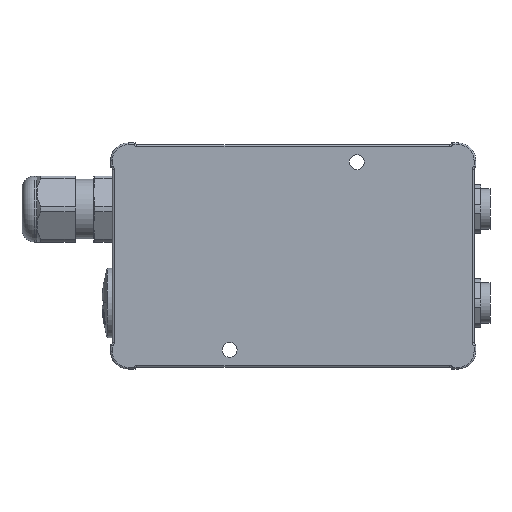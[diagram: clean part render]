
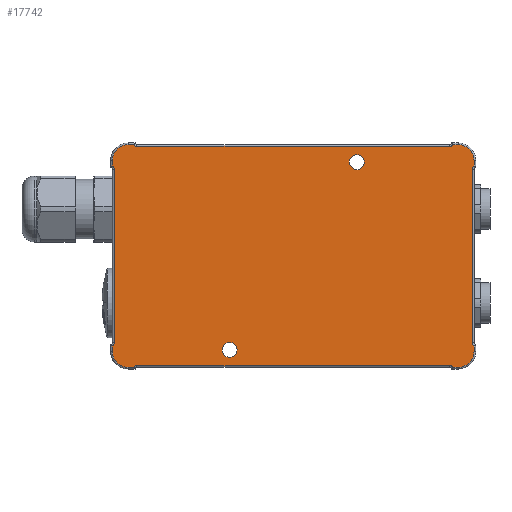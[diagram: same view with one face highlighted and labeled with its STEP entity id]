
A CAD part, front view. The second image highlights one B-rep face of the part: STEP entity #17742.
In plain terms, the highlighted planar face has unit normal (0, -1, 0).
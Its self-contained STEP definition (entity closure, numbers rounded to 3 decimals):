
#56=DIRECTION('',(0.,0.,1.));
#57=VECTOR('',#56,1.634);
#58=CARTESIAN_POINT('',(52.,0.,25.866));
#59=LINE('',#58,#57);
#64=CARTESIAN_POINT('',(52.5,0.,25.));
#65=DIRECTION('',(0.,-1.,0.));
#66=DIRECTION('',(-0.5,0.,0.866));
#67=AXIS2_PLACEMENT_3D('',#64,#65,#66);
#72=DIRECTION('',(0.,0.,-1.));
#73=VECTOR('',#72,50.);
#74=CARTESIAN_POINT('',(51.5,0.,25.));
#75=LINE('',#74,#73);
#79=CARTESIAN_POINT('',(52.5,0.,-25.));
#80=DIRECTION('',(0.,-1.,0.));
#81=DIRECTION('',(-1.,0.,0.));
#82=AXIS2_PLACEMENT_3D('',#79,#80,#81);
#87=DIRECTION('',(0.,0.,1.));
#88=VECTOR('',#87,1.634);
#89=CARTESIAN_POINT('',(52.,0.,-27.5));
#90=LINE('',#89,#88);
#94=CARTESIAN_POINT('',(47.5,0.,-27.5));
#95=DIRECTION('',(0.,-1.,0.));
#96=DIRECTION('',(0.,0.,-1.));
#97=AXIS2_PLACEMENT_3D('',#94,#95,#96);
#102=DIRECTION('',(1.,0.,0.));
#103=VECTOR('',#102,1.634);
#104=CARTESIAN_POINT('',(45.866,0.,-32.));
#105=LINE('',#104,#103);
#109=CARTESIAN_POINT('',(45.,0.,-32.5));
#110=DIRECTION('',(0.,-1.,0.));
#111=DIRECTION('',(0.866,0.,0.5));
#112=AXIS2_PLACEMENT_3D('',#109,#110,#111);
#117=DIRECTION('',(-1.,0.,0.));
#118=VECTOR('',#117,90.);
#119=CARTESIAN_POINT('',(45.,0.,-31.5));
#120=LINE('',#119,#118);
#124=CARTESIAN_POINT('',(-45.,0.,-32.5));
#125=DIRECTION('',(0.,-1.,0.));
#126=DIRECTION('',(0.,0.,1.));
#127=AXIS2_PLACEMENT_3D('',#124,#125,#126);
#132=DIRECTION('',(1.,0.,0.));
#133=VECTOR('',#132,1.634);
#134=CARTESIAN_POINT('',(-47.5,0.,-32.));
#135=LINE('',#134,#133);
#139=CARTESIAN_POINT('',(-47.5,0.,-27.5));
#140=DIRECTION('',(0.,-1.,0.));
#141=DIRECTION('',(-1.,0.,0.));
#142=AXIS2_PLACEMENT_3D('',#139,#140,#141);
#147=DIRECTION('',(0.,0.,-1.));
#148=VECTOR('',#147,1.634);
#149=CARTESIAN_POINT('',(-52.,0.,-25.866));
#150=LINE('',#149,#148);
#154=CARTESIAN_POINT('',(-52.5,0.,-25.));
#155=DIRECTION('',(0.,-1.,0.));
#156=DIRECTION('',(0.5,0.,-0.866));
#157=AXIS2_PLACEMENT_3D('',#154,#155,#156);
#162=DIRECTION('',(0.,0.,1.));
#163=VECTOR('',#162,50.);
#164=CARTESIAN_POINT('',(-51.5,0.,-25.));
#165=LINE('',#164,#163);
#169=CARTESIAN_POINT('',(-52.5,0.,25.));
#170=DIRECTION('',(0.,-1.,0.));
#171=DIRECTION('',(1.,0.,0.));
#172=AXIS2_PLACEMENT_3D('',#169,#170,#171);
#177=DIRECTION('',(0.,0.,-1.));
#178=VECTOR('',#177,1.634);
#179=CARTESIAN_POINT('',(-52.,0.,27.5));
#180=LINE('',#179,#178);
#184=CARTESIAN_POINT('',(-47.5,0.,27.5));
#185=DIRECTION('',(0.,-1.,0.));
#186=DIRECTION('',(0.,0.,1.));
#187=AXIS2_PLACEMENT_3D('',#184,#185,#186);
#192=DIRECTION('',(-1.,0.,0.));
#193=VECTOR('',#192,1.634);
#194=CARTESIAN_POINT('',(-45.866,0.,32.));
#195=LINE('',#194,#193);
#199=CARTESIAN_POINT('',(-45.,0.,32.5));
#200=DIRECTION('',(0.,-1.,0.));
#201=DIRECTION('',(-0.866,0.,-0.5));
#202=AXIS2_PLACEMENT_3D('',#199,#200,#201);
#207=DIRECTION('',(1.,0.,0.));
#208=VECTOR('',#207,90.);
#209=CARTESIAN_POINT('',(-45.,0.,31.5));
#210=LINE('',#209,#208);
#214=CARTESIAN_POINT('',(45.,0.,32.5));
#215=DIRECTION('',(0.,-1.,0.));
#216=DIRECTION('',(0.,0.,-1.));
#217=AXIS2_PLACEMENT_3D('',#214,#215,#216);
#222=DIRECTION('',(-1.,0.,0.));
#223=VECTOR('',#222,1.634);
#224=CARTESIAN_POINT('',(47.5,0.,32.));
#225=LINE('',#224,#223);
#229=CARTESIAN_POINT('',(47.5,0.,27.5));
#230=DIRECTION('',(0.,-1.,0.));
#231=DIRECTION('',(1.,0.,0.));
#232=AXIS2_PLACEMENT_3D('',#229,#230,#231);
#237=CARTESIAN_POINT('',(-18.3,0.,-27.));
#238=DIRECTION('',(0.,1.,0.));
#239=DIRECTION('',(1.,0.,0.));
#240=AXIS2_PLACEMENT_3D('',#237,#238,#239);
#245=CARTESIAN_POINT('',(-18.3,0.,-27.));
#246=DIRECTION('',(0.,1.,0.));
#247=DIRECTION('',(-1.,0.,0.));
#248=AXIS2_PLACEMENT_3D('',#245,#246,#247);
#253=CARTESIAN_POINT('',(18.3,0.,27.));
#254=DIRECTION('',(0.,1.,0.));
#255=DIRECTION('',(-1.,0.,0.));
#256=AXIS2_PLACEMENT_3D('',#253,#254,#255);
#261=CARTESIAN_POINT('',(18.3,0.,27.));
#262=DIRECTION('',(0.,1.,0.));
#263=DIRECTION('',(1.,0.,0.));
#264=AXIS2_PLACEMENT_3D('',#261,#262,#263);
#15621=CARTESIAN_POINT('',(-16.15,0.,-27.));
#15622=CARTESIAN_POINT('',(-20.45,0.,-27.));
#15623=VERTEX_POINT('',#15621);
#15624=VERTEX_POINT('',#15622);
#15629=CARTESIAN_POINT('',(16.15,0.,27.));
#15630=CARTESIAN_POINT('',(20.45,0.,27.));
#15631=VERTEX_POINT('',#15629);
#15632=VERTEX_POINT('',#15630);
#15657=CARTESIAN_POINT('',(52.,0.,25.866));
#15658=CARTESIAN_POINT('',(52.,0.,27.5));
#15659=VERTEX_POINT('',#15657);
#15660=VERTEX_POINT('',#15658);
#15665=CARTESIAN_POINT('',(47.5,0.,32.));
#15666=VERTEX_POINT('',#15665);
#15671=CARTESIAN_POINT('',(45.866,0.,32.));
#15672=VERTEX_POINT('',#15671);
#15677=CARTESIAN_POINT('',(51.5,0.,25.));
#15678=CARTESIAN_POINT('',(51.5,0.,-25.));
#15679=VERTEX_POINT('',#15677);
#15680=VERTEX_POINT('',#15678);
#15681=CARTESIAN_POINT('',(45.866,0.,-32.));
#15682=CARTESIAN_POINT('',(47.5,0.,-32.));
#15683=VERTEX_POINT('',#15681);
#15684=VERTEX_POINT('',#15682);
#15689=CARTESIAN_POINT('',(52.,0.,-27.5));
#15690=VERTEX_POINT('',#15689);
#15695=CARTESIAN_POINT('',(52.,0.,-25.866));
#15696=VERTEX_POINT('',#15695);
#15701=CARTESIAN_POINT('',(45.,0.,-31.5));
#15702=CARTESIAN_POINT('',(-45.,0.,-31.5));
#15703=VERTEX_POINT('',#15701);
#15704=VERTEX_POINT('',#15702);
#15705=CARTESIAN_POINT('',(-52.,0.,-25.866));
#15706=CARTESIAN_POINT('',(-52.,0.,-27.5));
#15707=VERTEX_POINT('',#15705);
#15708=VERTEX_POINT('',#15706);
#15713=CARTESIAN_POINT('',(-47.5,0.,-32.));
#15714=VERTEX_POINT('',#15713);
#15719=CARTESIAN_POINT('',(-45.866,0.,-32.));
#15720=VERTEX_POINT('',#15719);
#15725=CARTESIAN_POINT('',(-51.5,0.,-25.));
#15726=CARTESIAN_POINT('',(-51.5,0.,25.));
#15727=VERTEX_POINT('',#15725);
#15728=VERTEX_POINT('',#15726);
#15733=CARTESIAN_POINT('',(-52.,0.,27.5));
#15734=CARTESIAN_POINT('',(-52.,0.,25.866));
#15735=VERTEX_POINT('',#15733);
#15736=VERTEX_POINT('',#15734);
#15737=CARTESIAN_POINT('',(-47.5,0.,32.));
#15738=VERTEX_POINT('',#15737);
#15741=CARTESIAN_POINT('',(-45.866,0.,32.));
#15742=VERTEX_POINT('',#15741);
#15749=CARTESIAN_POINT('',(-45.,0.,31.5));
#15750=CARTESIAN_POINT('',(45.,0.,31.5));
#15751=VERTEX_POINT('',#15749);
#15752=VERTEX_POINT('',#15750);
#17675=CARTESIAN_POINT('',(0.,0.,0.));
#17676=DIRECTION('',(0.,1.,0.));
#17677=DIRECTION('',(1.,0.,0.));
#17678=AXIS2_PLACEMENT_3D('',#17675,#17676,#17677);
#17679=PLANE('',#17678);
#17681=ORIENTED_EDGE('',*,*,#17680,.F.);
#17683=ORIENTED_EDGE('',*,*,#17682,.T.);
#17685=ORIENTED_EDGE('',*,*,#17684,.T.);
#17687=ORIENTED_EDGE('',*,*,#17686,.T.);
#17689=ORIENTED_EDGE('',*,*,#17688,.F.);
#17691=ORIENTED_EDGE('',*,*,#17690,.F.);
#17693=ORIENTED_EDGE('',*,*,#17692,.F.);
#17695=ORIENTED_EDGE('',*,*,#17694,.T.);
#17697=ORIENTED_EDGE('',*,*,#17696,.T.);
#17699=ORIENTED_EDGE('',*,*,#17698,.T.);
#17701=ORIENTED_EDGE('',*,*,#17700,.F.);
#17703=ORIENTED_EDGE('',*,*,#17702,.F.);
#17705=ORIENTED_EDGE('',*,*,#17704,.F.);
#17707=ORIENTED_EDGE('',*,*,#17706,.T.);
#17709=ORIENTED_EDGE('',*,*,#17708,.T.);
#17711=ORIENTED_EDGE('',*,*,#17710,.T.);
#17713=ORIENTED_EDGE('',*,*,#17712,.F.);
#17715=ORIENTED_EDGE('',*,*,#17714,.F.);
#17717=ORIENTED_EDGE('',*,*,#17716,.F.);
#17719=ORIENTED_EDGE('',*,*,#17718,.T.);
#17721=ORIENTED_EDGE('',*,*,#17720,.T.);
#17723=ORIENTED_EDGE('',*,*,#17722,.T.);
#17725=ORIENTED_EDGE('',*,*,#17724,.F.);
#17727=ORIENTED_EDGE('',*,*,#17726,.F.);
#17728=EDGE_LOOP('',(#17681,#17683,#17685,#17687,#17689,#17691,#17693,#17695,
#17697,#17699,#17701,#17703,#17705,#17707,#17709,#17711,#17713,#17715,#17717,
#17719,#17721,#17723,#17725,#17727));
#17729=FACE_OUTER_BOUND('',#17728,.F.);
#17731=ORIENTED_EDGE('',*,*,#17730,.F.);
#17733=ORIENTED_EDGE('',*,*,#17732,.F.);
#17734=EDGE_LOOP('',(#17731,#17733));
#17735=FACE_BOUND('',#17734,.F.);
#17737=ORIENTED_EDGE('',*,*,#17736,.F.);
#17739=ORIENTED_EDGE('',*,*,#17738,.F.);
#17740=EDGE_LOOP('',(#17737,#17739));
#17741=FACE_BOUND('',#17740,.F.);
#68=CIRCLE('',#67,1.);
#83=CIRCLE('',#82,1.);
#98=CIRCLE('',#97,4.5);
#113=CIRCLE('',#112,1.);
#128=CIRCLE('',#127,1.);
#143=CIRCLE('',#142,4.5);
#158=CIRCLE('',#157,1.);
#173=CIRCLE('',#172,1.);
#188=CIRCLE('',#187,4.5);
#203=CIRCLE('',#202,1.);
#218=CIRCLE('',#217,1.);
#233=CIRCLE('',#232,4.5);
#241=CIRCLE('',#240,2.15);
#249=CIRCLE('',#248,2.15);
#257=CIRCLE('',#256,2.15);
#265=CIRCLE('',#264,2.15);
#17680=EDGE_CURVE('',#15659,#15660,#59,.T.);
#17682=EDGE_CURVE('',#15659,#15679,#68,.T.);
#17684=EDGE_CURVE('',#15679,#15680,#75,.T.);
#17686=EDGE_CURVE('',#15680,#15696,#83,.T.);
#17688=EDGE_CURVE('',#15690,#15696,#90,.T.);
#17690=EDGE_CURVE('',#15684,#15690,#98,.T.);
#17692=EDGE_CURVE('',#15683,#15684,#105,.T.);
#17694=EDGE_CURVE('',#15683,#15703,#113,.T.);
#17696=EDGE_CURVE('',#15703,#15704,#120,.T.);
#17698=EDGE_CURVE('',#15704,#15720,#128,.T.);
#17700=EDGE_CURVE('',#15714,#15720,#135,.T.);
#17702=EDGE_CURVE('',#15708,#15714,#143,.T.);
#17704=EDGE_CURVE('',#15707,#15708,#150,.T.);
#17706=EDGE_CURVE('',#15707,#15727,#158,.T.);
#17708=EDGE_CURVE('',#15727,#15728,#165,.T.);
#17710=EDGE_CURVE('',#15728,#15736,#173,.T.);
#17712=EDGE_CURVE('',#15735,#15736,#180,.T.);
#17714=EDGE_CURVE('',#15738,#15735,#188,.T.);
#17716=EDGE_CURVE('',#15742,#15738,#195,.T.);
#17718=EDGE_CURVE('',#15742,#15751,#203,.T.);
#17720=EDGE_CURVE('',#15751,#15752,#210,.T.);
#17722=EDGE_CURVE('',#15752,#15672,#218,.T.);
#17724=EDGE_CURVE('',#15666,#15672,#225,.T.);
#17726=EDGE_CURVE('',#15660,#15666,#233,.T.);
#17730=EDGE_CURVE('',#15623,#15624,#241,.T.);
#17732=EDGE_CURVE('',#15624,#15623,#249,.T.);
#17736=EDGE_CURVE('',#15631,#15632,#257,.T.);
#17738=EDGE_CURVE('',#15632,#15631,#265,.T.);
#17742=ADVANCED_FACE('',(#17729,#17735,#17741),#17679,.F.);
